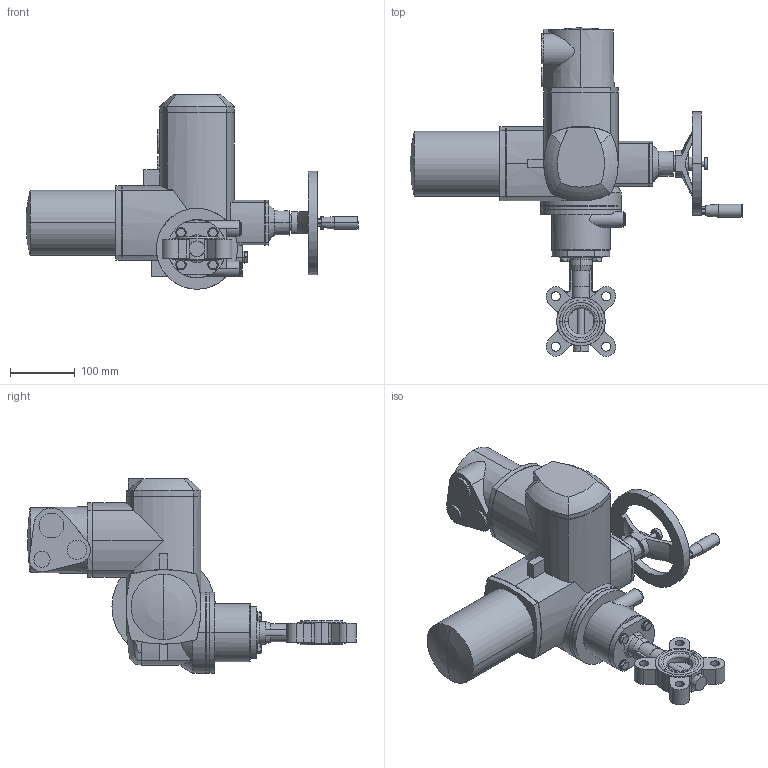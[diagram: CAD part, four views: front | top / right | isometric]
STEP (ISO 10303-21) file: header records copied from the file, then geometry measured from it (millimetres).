
FILE_DESCRIPTION (( 'STEP AP214' ), '1' );
FILE_NAME ('67527.step', '2020-10-23T13:45:13', ( '' ), ( '' ), 'SwSTEP 2.0', 'SolidWorks 2019', '' );
FILE_SCHEMA (( 'AUTOMOTIVE_DESIGN' ));
Length unit declared in the file: millimetre
Products named in the file (7): Gewindestift mit Kegelkuppe und In-6kt DIN 913 A4_Gewindestift mit In-6kt M5x10; 67527; 54377_SQ05.2 F05_F07-VK11; SQ(R) 05.2_SQ 05.2 Drehstrommotor; TL20-0040_M01; U-Scheibe DIN 125 A_M8; 6kt-Schr DIN 933_M8x20
Assembly tree (12 placements, depth 2):
  67527
    TL20-0040_M01
    U-Scheibe DIN 125 A_M8  x4
    6kt-Schr DIN 933_M8x20  x4
    SQ(R) 05.2_SQ 05.2 Drehstrommotor
    54377_SQ05.2 F05_F07-VK11
    Gewindestift mit Kegelkuppe und In-6kt DIN 913 A4_Gewindestift mit In-6kt M5x10
Bounding box: 512.7 x 507.37 x 300.3 mm (x, y, z)
Volume: 8228238.5 mm3; surface area: 443755 mm2
Topology: 12 solids, 12 shells, 700 faces, 1752 edges, 1109 vertices
Faces by surface type: plane 349, cylinder 217, cone 109, bspline 11, torus 10, sphere 4
Entity records: 26476 total; most frequent: CARTESIAN_POINT 7518, DIRECTION 3129, ORIENTED_EDGE 3082, EDGE_CURVE 1541, AXIS2_PLACEMENT_3D 1157, VERTEX_POINT 987, VECTOR 815, LINE 815
